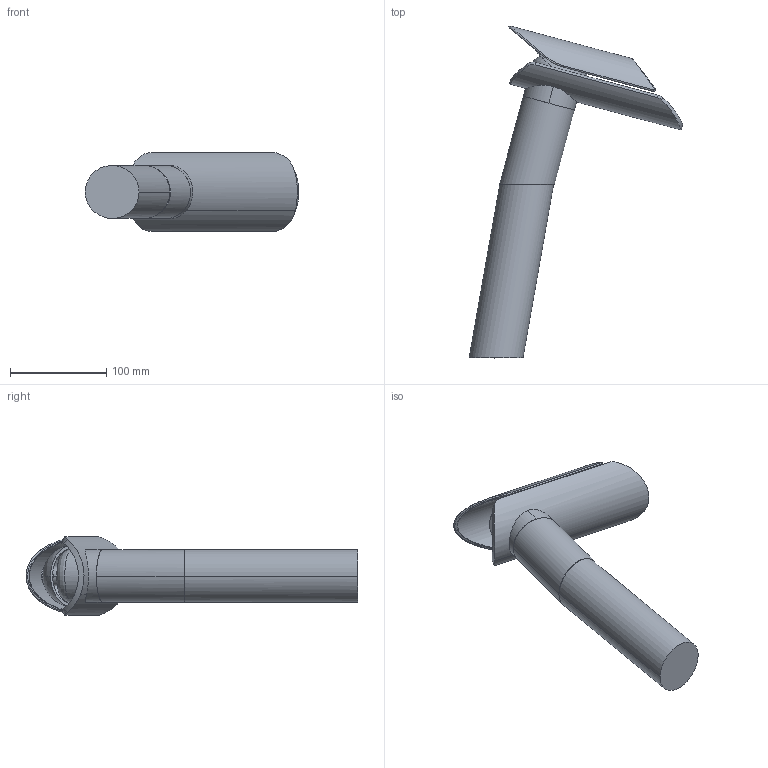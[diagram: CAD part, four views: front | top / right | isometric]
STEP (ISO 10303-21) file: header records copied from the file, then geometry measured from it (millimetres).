
FILE_DESCRIPTION(('CoCreate Modeling STEP Export'),'2;1');
FILE_NAME('73.211LL-73.579.stp','2012-06-04T 9:54:14',(''),(''),'CoCreate Modeling STEP processor for AP214 (Solid Model)','CoCreate Modeling 17.0 01-Apr-2010 (C) Parametric Technology GmbH','');
FILE_SCHEMA(('AUTOMOTIVE_DESIGN { 1 0 10303 214 1 1 1 1 }'));
Length unit declared in the file: millimetre
Products named in the file (2): Bocca-vetro.1.1
Assembly tree (1 placements, depth 2):
  Bocca-vetro.1.1
    Bocca-vetro.1.1
Bounding box: 221.74 x 344.62 x 81.57 mm (x, y, z)
Volume: 783352.6 mm3; surface area: 147113.4 mm2
Topology: 1 solids, 3 shells, 142 faces, 379 edges, 239 vertices
Faces by surface type: cylinder 71, plane 27, bspline 20, cone 11, sphere 8, torus 5
Entity records: 23119 total; most frequent: CARTESIAN_POINT 20277, ORIENTED_EDGE 738, DIRECTION 383, EDGE_CURVE 369, VERTEX_POINT 237, EDGE_LOOP 152, FACE_OUTER_BOUND 142, ADVANCED_FACE 142
